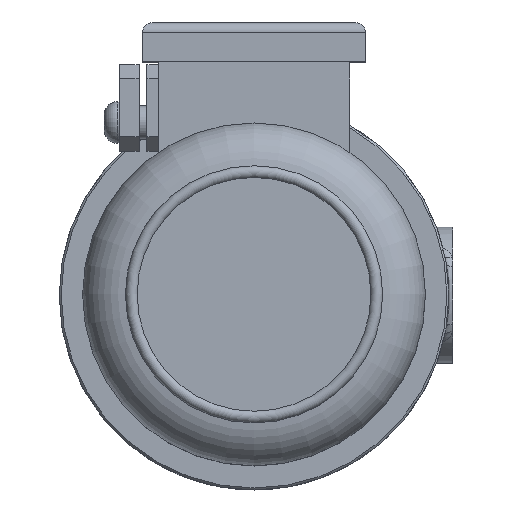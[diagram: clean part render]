
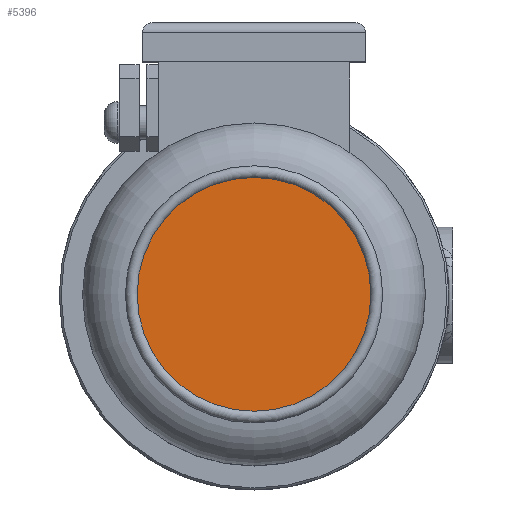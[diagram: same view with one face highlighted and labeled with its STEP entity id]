
A CAD part, top view. The second image highlights one B-rep face of the part: STEP entity #5396.
In plain terms, the highlighted planar face has unit normal (0, 0, 1).
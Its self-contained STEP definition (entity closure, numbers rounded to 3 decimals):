
#368=CIRCLE('',#5875,60.);
#1102=ORIENTED_EDGE('',*,*,#2639,.F.);
#2639=EDGE_CURVE('',#3413,#3413,#368,.T.);
#3413=VERTEX_POINT('',#9262);
#4484=EDGE_LOOP('',(#1102));
#4908=FACE_BOUND('',#4484,.T.);
#5215=PLANE('',#5876);
#5396=ADVANCED_FACE('',(#4908),#5215,.T.);
#5875=AXIS2_PLACEMENT_3D('',#9261,#6677,#6678);
#5876=AXIS2_PLACEMENT_3D('',#9263,#6679,#6680);
#6677=DIRECTION('',(0.,0.,-1.));
#6678=DIRECTION('',(-1.,0.,0.));
#6679=DIRECTION('',(0.,0.,1.));
#6680=DIRECTION('',(1.,0.,0.));
#9261=CARTESIAN_POINT('',(0.,0.,564.584));
#9262=CARTESIAN_POINT('',(-60.,0.,564.584));
#9263=CARTESIAN_POINT('',(-60.,0.,564.584));
